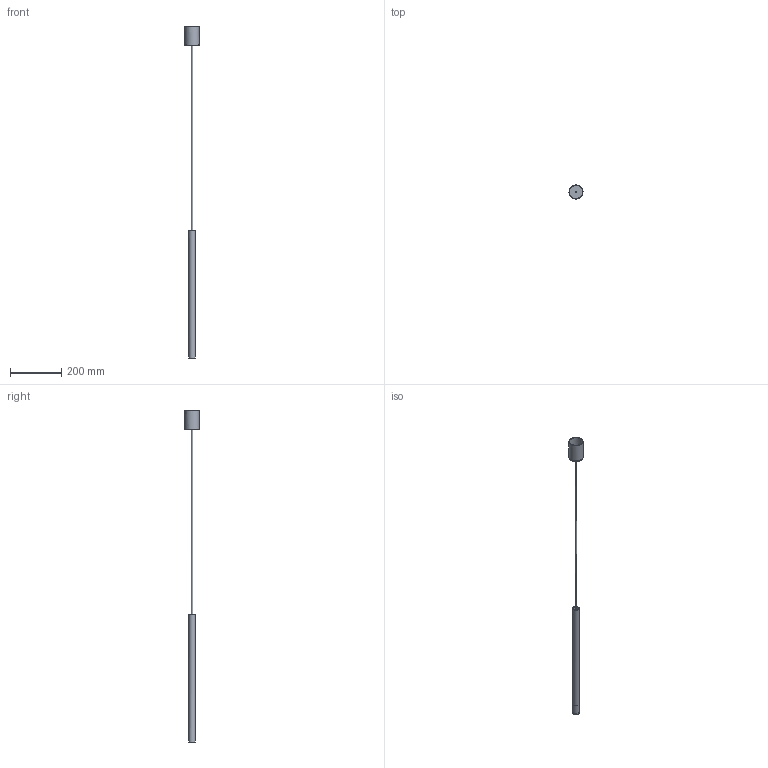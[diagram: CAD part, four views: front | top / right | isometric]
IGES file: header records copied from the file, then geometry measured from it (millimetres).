
Start section: SolidWorks IGES file using NURBS representation for surfaces
Global section: file name: Z:\Modele 3D_WWW\_KOLEKCJE WWW\LASER\8797\LASER-8797.IGS; native system: SolidWorks 2021; preprocessor: SolidWorks 2021; author: gabriela.tworek; date: 220217.090911; units: millimetre
Bounding box: 55 x 54.99 x 1299.82 mm (x, y, z)
Surface area: 123305.1 mm2 (no closed solid volume)
Topology: 0 solids, 0 shells, 18 faces, 72 edges, 64 vertices
Faces by surface type: bspline 18
